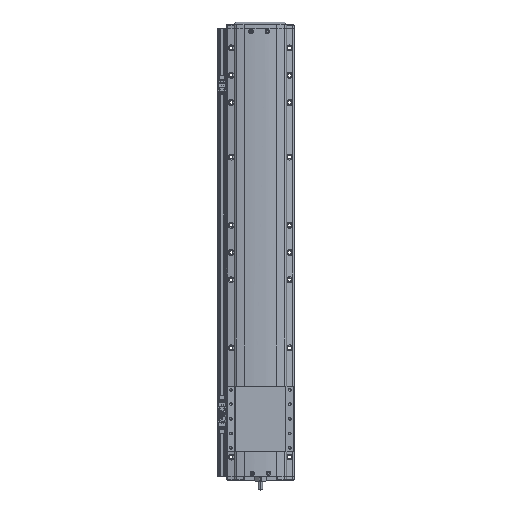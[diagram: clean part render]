
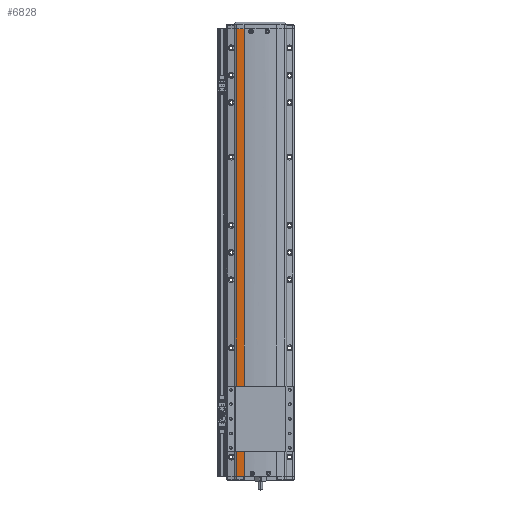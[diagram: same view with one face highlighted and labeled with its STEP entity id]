
A CAD part, top view. The second image highlights one B-rep face of the part: STEP entity #6828.
In plain terms, the highlighted cylindrical face has radius 248.8 mm (diameter 497.6 mm), a partial arc.
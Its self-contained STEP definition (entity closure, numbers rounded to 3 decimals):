
#6828=ADVANCED_FACE('',(#14031),#14032,.T.);
#14031=FACE_OUTER_BOUND('',#23110,.T.);
#14032=CYLINDRICAL_SURFACE('',#23111,248.8);
#23110=EDGE_LOOP('',(#43313,#43314,#43315,#43316));
#23111=AXIS2_PLACEMENT_3D('',#43317,#43318,#43319);
#43313=ORIENTED_EDGE('',*,*,#52723,.T.);
#43314=ORIENTED_EDGE('',*,*,#46821,.F.);
#43315=ORIENTED_EDGE('',*,*,#49981,.T.);
#43316=ORIENTED_EDGE('',*,*,#49024,.T.);
#43317=CARTESIAN_POINT('',(-300.,542.222,-218.));
#43318=DIRECTION('',(0.0,-1.0,0.));
#43319=DIRECTION('',(1.0,0.0,0.0));
#46821=EDGE_CURVE('',#56094,#56089,#56096,.T.);
#49024=EDGE_CURVE('',#59752,#59750,#59753,.T.);
#49981=EDGE_CURVE('',#56094,#59752,#61365,.T.);
#52723=EDGE_CURVE('',#59750,#56089,#65104,.T.);
#56089=VERTEX_POINT('',#69383);
#56094=VERTEX_POINT('',#69390);
#56096=LINE('',#69393,#69394);
#59750=VERTEX_POINT('',#74708);
#59752=VERTEX_POINT('',#74710);
#59753=LINE('',#74711,#74712);
#61365=CIRCLE('',#77084,248.8);
#65104=CIRCLE('',#82550,248.8);
#69383=CARTESIAN_POINT('',(-330.,-277.778,28.985));
#69390=CARTESIAN_POINT('',(-330.,542.222,28.985));
#69393=CARTESIAN_POINT('',(-330.,542.222,28.985));
#69394=VECTOR('',#86790,10.0);
#74708=CARTESIAN_POINT('',(-343.882,-277.778,26.9));
#74710=CARTESIAN_POINT('',(-343.882,542.222,26.9));
#74711=CARTESIAN_POINT('',(-343.882,542.222,26.9));
#74712=VECTOR('',#89643,10.0);
#77084=AXIS2_PLACEMENT_3D('',#90741,#90742,#90743);
#82550=AXIS2_PLACEMENT_3D('',#93945,#93946,#93947);
#86790=DIRECTION('',(0.0,-1.0,0.));
#89643=DIRECTION('',(0.0,-1.0,0.));
#90741=CARTESIAN_POINT('',(-300.,542.222,-218.));
#90742=DIRECTION('',(0.0,-1.0,0.));
#90743=DIRECTION('',(1.0,0.0,0.0));
#93945=CARTESIAN_POINT('',(-300.,-277.778,-218.));
#93946=DIRECTION('',(0.0,1.0,0.));
#93947=DIRECTION('',(1.0,0.0,0.0));
